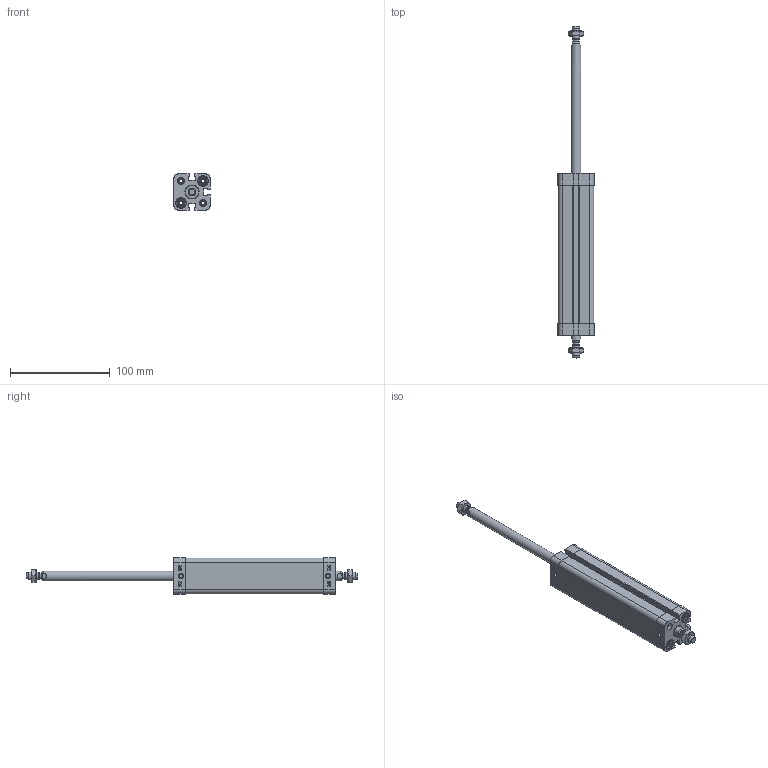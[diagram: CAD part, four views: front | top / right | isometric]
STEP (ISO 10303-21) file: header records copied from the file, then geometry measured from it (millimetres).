
FILE_DESCRIPTION(/* description */ ('Unknown'),/* implementation_level */ '2;1');
FILE_NAME(/* name */ 'ZBF 20_125',/* time_stamp */ '2025-01-28T08:47:31+01:00',/* author */ ('Unknown'),/* organization */ ('HAFNER Pneumatika Kft'),/* preprocessor_version */ 'ST-DEVELOPER v16.7',/* originating_system */ 'Solid Edge',/* authorisation */ 'Unknown');
FILE_SCHEMA (('AUTOMOTIVE_DESIGN {1 0 10303 214 3 1 1}'));
Length unit declared in the file: millimetre
Products named in the file (5): ZBF 20_125; Profilrohr; Kolbenstange; Kit; Mutter
Assembly tree (7 placements, depth 2):
  ZBF 20_125
    Profilrohr
    Kolbenstange  x2
    Kit  x2
    Mutter  x2
Bounding box: 36.3 x 332 x 36.3 mm (x, y, z)
Volume: 145773.6 mm3; surface area: 74516.4 mm2
Topology: 7 solids, 11 shells, 659 faces, 1721 edges, 1126 vertices
Faces by surface type: plane 310, cylinder 159, bspline 86, cone 84, torus 20
Full cylindrical faces by diameter (mm): 4.134 x10, 5.8 x2, 6.647 x2, 7.5 x4, 7.55 x4, 8 x10, 10 x2, 10.48 x2, 10.9 x4, 11.1 x4, 11.4 x2, 12 x2, 13.84 x2, 14 x2, 20 x3
Entity records: 12943 total; most frequent: CARTESIAN_POINT 2491, ORIENTED_EDGE 1726, DIRECTION 1643, EDGE_CURVE 863, VERTEX_POINT 599, AXIS2_PLACEMENT_3D 579, LINE 485, VECTOR 485
